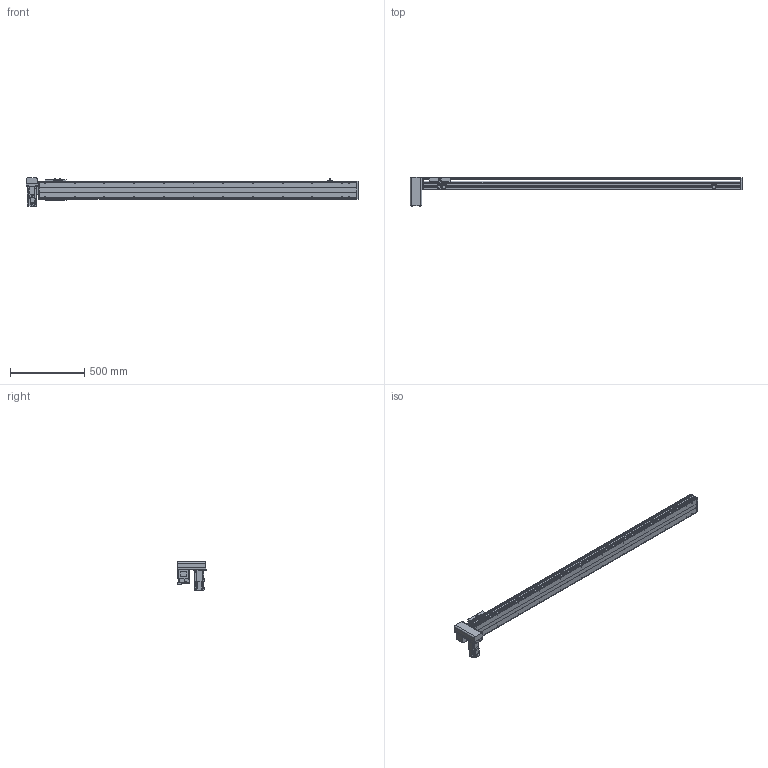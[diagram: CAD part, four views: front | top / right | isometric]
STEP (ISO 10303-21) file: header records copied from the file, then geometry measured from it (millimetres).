
FILE_DESCRIPTION( ( 'STEP AP214' ), '1' );
FILE_NAME( 'x:/temp/worker_27/temp/exporttempdir_6708_199_qv6zp/format_0/PBS120-P40-S1850-RD-T40-C1-N(0).stp', '2022-06-06T00:43:17', ( 'License CC BY-ND 4.0' ), ( 'CADENAS' ), ' ', 'PARTsolutions', ' ' );
FILE_SCHEMA( ( 'AUTOMOTIVE_DESIGN { 1 0 10303 214 1 1 1 1 }' ) );
Length unit declared in the file: millimetre
Products named in the file (7): PBS120-P40-S1850-RD-T40-C1-N(0); _PBS120-S1850()_body; _PBS120T-RD_motors; _T40-p1; _PBS120_sliser; _PBS120_plant; _PBS120_sensor
Assembly tree (8 placements, depth 2):
  PBS120-P40-S1850-RD-T40-C1-N(0)
    _PBS120-S1850()_body
    _PBS120T-RD_motors
    _T40-p1
    _PBS120_sliser
    _PBS120_plant
    _PBS120_sensor  x3
Bounding box: 2236 x 196 x 189.7 mm (x, y, z)
Volume: 8727793.6 mm3; surface area: 1774342.2 mm2
Topology: 8 solids, 8 shells, 852 faces, 2196 edges, 1411 vertices
Faces by surface type: plane 557, cylinder 237, cone 56, torus 2
Full cylindrical faces by diameter (mm): 2.459 x6, 3.242 x4, 4 x2, 4.134 x4, 4.5 x10, 4.917 x28, 5.5 x11, 6 x2, 6.6 x1, 7 x2, 8.5 x4, 9 x4, 12 x1, 14 x1, 30 x2, 40 x1, 50 x2
Entity records: 27996 total; most frequent: DIRECTION 3836, CARTESIAN_POINT 3749, ORIENTED_EDGE 3550, EDGE_CURVE 1775, AXIS2_PLACEMENT_3D 1304, LINE 1228, VECTOR 1228, VERTEX_POINT 1217
